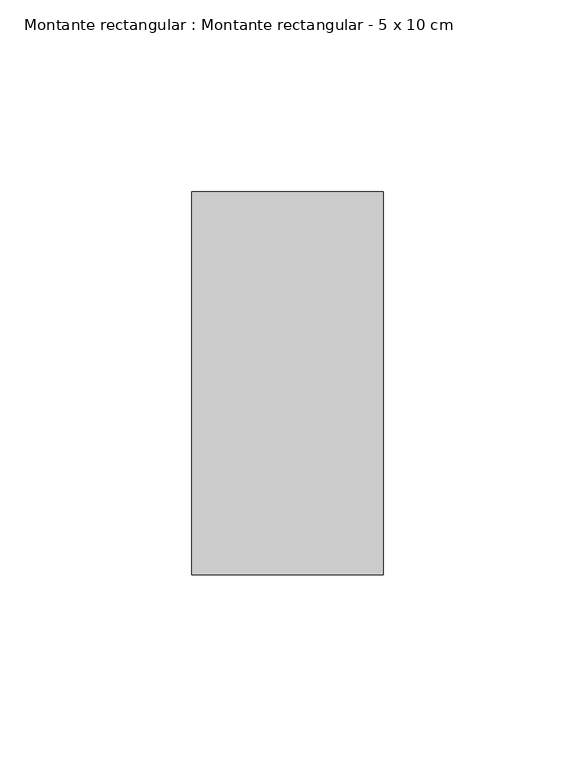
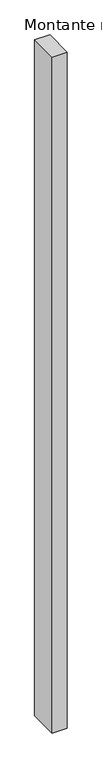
"""IFC4 building model written with IfcOpenShell, lengths in millimetres: member geometry, Montante rectangular : Montante rectangular - 5 x 10 cm."""

import ifcopenshell
import ifcopenshell.guid

model = None  # the IFC model being written
_history = None  # IfcOwnerHistory: only IFC2X3 demands one
_inside = {}  # id of a spatial element -> (the spatial element, [elements in it])
_under = {}  # id of a project, library or spatial element -> (it, [spatial elements below it])
_declared = {}  # id of a project -> (the project, [libraries it declares])
_typed = {}  # id of a type object -> (the type object, [elements of that type])
_made_of = {}  # id of a material, layer set ... -> (it, [elements and type objects made of it])


def new_model(schema):
    """Start an empty IFC model of exactly this schema.

    Asked for "IFC4X3", IfcOpenShell would pick the latest addendum, in which some entities
    have other attributes; the version numbers below select the first issue.
    IFC2X3 requires an IfcOwnerHistory on every rooted entity: one is made here for all.
    """
    global model, _history
    if schema == "IFC4X3":
        model = ifcopenshell.file(schema_version=(4, 3, 0, 0))
    else:
        model = ifcopenshell.file(schema=schema)
    _inside.clear()
    _under.clear()
    _declared.clear()
    _typed.clear()
    _made_of.clear()
    _history = None
    if model.schema == "IFC2X3":
        org = make("IfcOrganization", Name="unknown")
        user = make(
            "IfcPersonAndOrganization",
            ThePerson=make("IfcPerson", FamilyName="unknown"),
            TheOrganization=org,
        )
        app = make(
            "IfcApplication",
            ApplicationDeveloper=org,
            Version="unknown",
            ApplicationFullName="unknown",
            ApplicationIdentifier="unknown",
        )
        _history = make(
            "IfcOwnerHistory",
            OwningUser=user,
            OwningApplication=app,
            ChangeAction="ADDED",
            CreationDate=0,
        )
    return model


def make(cls, **values):
    """One entity of the class cls with the attributes given. An attribute that is None is left unset."""
    return model.create_entity(
        cls, **{name: value for name, value in values.items() if value is not None}
    )


def rooted(cls, **values):
    """An entity with a GlobalId (a new one), such as an element, a storey or a relation."""
    return make(cls, GlobalId=ifcopenshell.guid.new(), OwnerHistory=_history, **values)


def si_unit(unit_type, name, prefix=None):
    """IfcSIUnit, for example si_unit("LENGTHUNIT", "METRE", prefix="MILLI")."""
    return make("IfcSIUnit", UnitType=unit_type, Prefix=prefix, Name=name)


def assignment(units):
    """IfcUnitAssignment: the units of a project."""
    return None if units is None else make("IfcUnitAssignment", Units=units)


def point(xyz):
    """IfcCartesianPoint."""
    return None if xyz is None else make("IfcCartesianPoint", Coordinates=xyz)


def direction(xyz):
    """IfcDirection."""
    return None if xyz is None else make("IfcDirection", DirectionRatios=xyz)


def frame(location, z_axis=None, x_axis=None):
    """IfcAxis2Placement3D, a coordinate frame: its origin and axes. An axis left out is left unset."""
    return make(
        "IfcAxis2Placement3D",
        Location=point(location),
        Axis=direction(z_axis),
        RefDirection=direction(x_axis),
    )


def origin():
    """The frame at (0, 0, 0) with its axes left unset."""
    return frame((0.0, 0.0, 0.0))


def place(relative_to, where):
    """IfcLocalPlacement: puts the frame where relative to a parent placement (None: the world)."""
    return make(
        "IfcLocalPlacement", PlacementRelTo=relative_to, RelativePlacement=where
    )


def context(
    kind, dimensions, precision=None, world=None, true_north=None, identifier=None
):
    """IfcGeometricRepresentationContext, for example the 3D "Model" context."""
    return make(
        "IfcGeometricRepresentationContext",
        ContextIdentifier=identifier,
        ContextType=kind,
        CoordinateSpaceDimension=dimensions,
        Precision=precision,
        WorldCoordinateSystem=world,
        TrueNorth=true_north,
    )


def project(units=None, contexts=None):
    """IfcProject with its units and contexts."""
    return rooted(
        "IfcProject",
        Name="project",
        RepresentationContexts=contexts,
        UnitsInContext=assignment(units),
    )


def spatial(cls, under=None, at=None, **own):
    """A site, building, storey or space (cls), placed at a placement, below another one or the project."""
    s = rooted(cls, ObjectPlacement=at, **own)
    if under is not None:
        _under.setdefault(under.id(), (under, []))[1].append(s)
    return s


def polyline(points):
    """IfcPolyline through the points."""
    return make("IfcPolyline", Points=[point(p) for p in points])


def outline(outer, holes=None, kind="AREA"):
    """IfcArbitraryClosedProfileDef: a profile drawn as a closed curve; with holes, ...WithVoids."""
    if holes is None:
        return make("IfcArbitraryClosedProfileDef", ProfileType=kind, OuterCurve=outer)
    return make(
        "IfcArbitraryProfileDefWithVoids",
        ProfileType=kind,
        OuterCurve=outer,
        InnerCurves=holes,
    )


def extrude(swept, where, along, depth):
    """IfcExtrudedAreaSolid: the profile swept, set in the frame where, extruded along a direction by depth."""
    return make(
        "IfcExtrudedAreaSolid",
        SweptArea=swept,
        Position=where,
        ExtrudedDirection=direction(along),
        Depth=depth,
    )


def shape(context_of_items, identifier, shape_type, items):
    """IfcShapeRepresentation: the items that make up one representation, for example the "Body"."""
    return make(
        "IfcShapeRepresentation",
        ContextOfItems=context_of_items,
        RepresentationIdentifier=identifier,
        RepresentationType=shape_type,
        Items=items,
    )


def source(mapping_origin, context_of_items, identifier, shape_type, items):
    """IfcRepresentationMap: a shape defined once, which mapped items show again and again."""
    return make(
        "IfcRepresentationMap",
        MappingOrigin=mapping_origin,
        MappedRepresentation=shape(context_of_items, identifier, shape_type, items),
    )


def transform(
    local_origin,
    x_axis=None,
    y_axis=None,
    z_axis=None,
    scale=None,
    scale2=None,
    scale3=None,
    uniform=True,
):
    """IfcCartesianTransformationOperator3D, or its non-uniform kind. x_axis, y_axis, z_axis: its Axis1, 2, 3."""
    if uniform:
        return make(
            "IfcCartesianTransformationOperator3D",
            Axis1=direction(x_axis),
            Axis2=direction(y_axis),
            LocalOrigin=point(local_origin),
            Scale=scale,
            Axis3=direction(z_axis),
        )
    return make(
        "IfcCartesianTransformationOperator3DnonUniform",
        Axis1=direction(x_axis),
        Axis2=direction(y_axis),
        LocalOrigin=point(local_origin),
        Scale=scale,
        Axis3=direction(z_axis),
        Scale2=scale2,
        Scale3=scale3,
    )


def mapped(mapping_source, mapping_target):
    """IfcMappedItem: shows the shape of a source again, moved by a transform."""
    return make(
        "IfcMappedItem", MappingSource=mapping_source, MappingTarget=mapping_target
    )


def made_of(thing, what):
    """Note that an element or type object is made of a material, layer set ...; save() writes the relation."""
    if what is not None:
        _made_of.setdefault(what.id(), (what, []))[1].append(thing)
    return thing


def element(
    cls,
    number,
    at=None,
    inside=None,
    cuts=None,
    type_object=None,
    material=None,
    context=None,
    identifier="Body",
    shape_type=None,
    held_by="IfcProductDefinitionShape",
    body=None,
    shapes=None,
    **own,
):
    """One element of the class cls, such as IfcWall. Its Tag is "e" and its number.

    at: its placement. inside: the storey or other place that contains it. cuts: it is an
    opening in that element (IfcRelVoidsElement). A single representation is given by context,
    identifier, shape_type and body (its items); several are given by shapes. held_by: the class
    of the entity that holds the representations. save() writes the other relations.
    """
    e = rooted(cls, Tag="e%d" % number, ObjectPlacement=at, **own)
    if body is not None:
        shapes = [shape(context, identifier, shape_type, body)]
    if shapes is not None:
        e.Representation = make(held_by, Representations=shapes)
    if inside is not None:
        _inside.setdefault(inside.id(), (inside, []))[1].append(e)
    if cuts is not None:
        rooted(
            "IfcRelVoidsElement", RelatingBuildingElement=cuts, RelatedOpeningElement=e
        )
    if type_object is not None:
        _typed.setdefault(type_object.id(), (type_object, []))[1].append(e)
    return made_of(e, material)


def aggregate(whole, parts):
    """IfcRelAggregates: a whole, such as a stair, and the parts it consists of."""
    return rooted("IfcRelAggregates", RelatingObject=whole, RelatedObjects=parts)


def save(model, path):
    """Write the relations noted so far, then the file.

    IfcRelAggregates (storeys below a building ...), IfcRelContainedInSpatialStructure (elements
    in a storey), IfcRelDefinesByType, IfcRelAssociatesMaterial and IfcRelDeclares: one each for
    every whole, place, type object, material and project.
    """
    for whole, parts in _under.values():
        aggregate(whole, parts)
    for where, things in _inside.values():
        rooted(
            "IfcRelContainedInSpatialStructure",
            RelatedElements=things,
            RelatingStructure=where,
        )
    for kind, things in _typed.values():
        rooted("IfcRelDefinesByType", RelatedObjects=things, RelatingType=kind)
    for what, things in _made_of.values():
        rooted("IfcRelAssociatesMaterial", RelatedObjects=things, RelatingMaterial=what)
    for by, libraries in _declared.values():
        rooted("IfcRelDeclares", RelatingContext=by, RelatedDefinitions=libraries)
    model.write(path)


def montante_rectangular_montante_rectangular_5_x_10_cm_e57cffe0(model_context):
    return source(origin(), model_context, "Body", "SweptSolid", [
        extrude(outline(polyline([(25.0, 50.0), (25.0, -50.0), (-25.0, -50.0), (-25.0, 50.0), (25.0, 50.0)])), frame((0.0, 0.0, -2365.0), z_axis=(0.0, 0.0, 1.0), x_axis=(1.0, 0.0, 0.0)), (0.0, 0.0, 1.0), 2365.0),
    ])


if __name__ == "__main__":
    model = new_model("IFC4")
    model_context = context("Model", 3, world=origin())
    ifc_project = project(units=[si_unit("LENGTHUNIT", "METRE", prefix="MILLI")], contexts=[model_context])
    site = spatial("IfcSite", under=ifc_project)
    building = spatial("IfcBuilding", under=site)
    placement = place(None, origin())
    montante_rectangular_montante_rectangular_5_x_10_cm_shape = montante_rectangular_montante_rectangular_5_x_10_cm_e57cffe0(model_context)
    element("IfcMember", 1, ObjectType="Montante rectangular : Montante rectangular - 5 x 10 cm", at=placement, inside=building, context=model_context, shape_type="MappedRepresentation", body=[
        mapped(montante_rectangular_montante_rectangular_5_x_10_cm_shape, transform((0.0, 0.0, 0.0), x_axis=(1.0, 0.0, 0.0), y_axis=(0.0, 1.0, 0.0), z_axis=(0.0, 0.0, 1.0))),
    ])
    save(model, "model.ifc")
